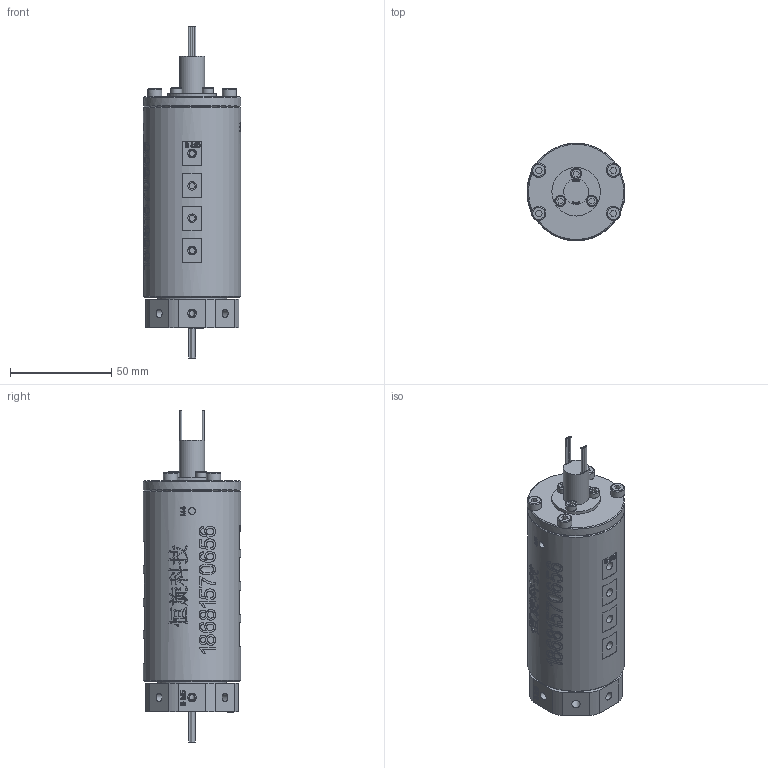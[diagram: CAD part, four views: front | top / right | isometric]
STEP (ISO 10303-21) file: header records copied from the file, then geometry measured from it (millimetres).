
FILE_DESCRIPTION(/* description */ (''),/* implementation_level */ '2;1');
FILE_NAME(/* name */ 'HQ08005-08M-3D模型.stp',/* time_stamp */ '2025-09-01T17:52:37+08:00',/* author */ (''),/* organization */ (''),/* preprocessor_version */ 'ST-DEVELOPER v16.7',/* originating_system */ 'SIEMENS PLM Software NX 12.0',/* authorisation */ '');
FILE_SCHEMA (('AUTOMOTIVE_DESIGN { 1 0 10303 214 3 1 1 1 }'));
Length unit declared in the file: millimetre
Products named in the file (1): AdmiB44865CDwe0w
Bounding box: 48.13 x 48 x 163.9 mm (x, y, z)
Volume: 205077.2 mm3; surface area: 29388.7 mm2
Topology: 1 solids, 4 shells, 1142 faces, 2994 edges, 1987 vertices
Faces by surface type: plane 532, extrusion 417, cylinder 139, bspline 38, cone 9, torus 7
Full cylindrical faces by diameter (mm): 0.8 x16, 3 x27, 3.4 x9, 4.1 x8, 4.2 x24, 5.5 x3, 6 x1, 7 x4, 12.4 x1, 23.9 x1, 34 x1, 42 x1, 48 x2
Entity records: 41645 total; most frequent: CARTESIAN_POINT 17660, ORIENTED_EDGE 5590, DIRECTION 3231, EDGE_CURVE 2795, B_SPLINE_CURVE_WITH_KNOTS 2200, VERTEX_POINT 1912, EDGE_LOOP 1403, ADVANCED_FACE 1138
